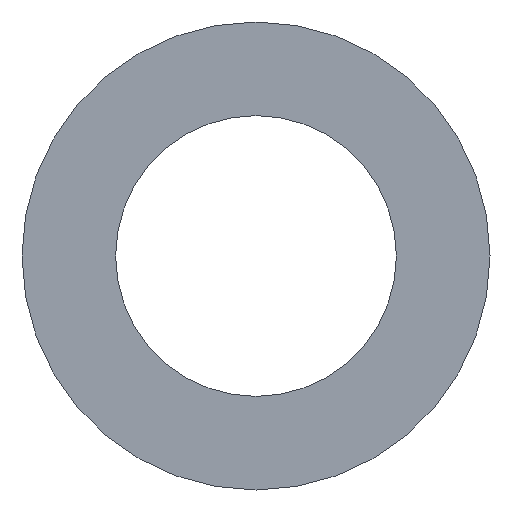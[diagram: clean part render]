
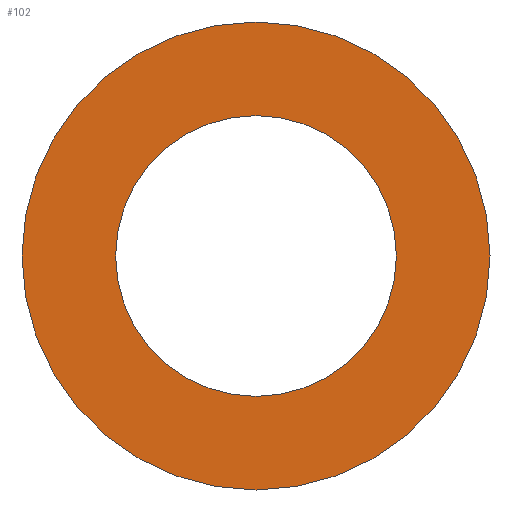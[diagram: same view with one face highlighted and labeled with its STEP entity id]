
A CAD part, front view. The second image highlights one B-rep face of the part: STEP entity #102.
In plain terms, the highlighted planar face has unit normal (0, -1, 0).
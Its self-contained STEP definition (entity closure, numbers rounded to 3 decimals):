
#4 = ORIENTED_EDGE ( 'NONE', *, *, #166, .F. ) ;
#11 = CARTESIAN_POINT ( 'NONE',  ( 0., 0., -2.5 ) ) ;
#16 = EDGE_CURVE ( 'NONE', #77, #127, #165, .T. ) ;
#20 = CIRCLE ( 'NONE', #192, 2.5 ) ;
#25 = DIRECTION ( 'NONE',  ( 0., 1., 0. ) ) ;
#27 = DIRECTION ( 'NONE',  ( 0., 0., 1. ) ) ;
#28 = DIRECTION ( 'NONE',  ( 0., 0., 1. ) ) ;
#31 = VERTEX_POINT ( 'NONE', #11 ) ;
#37 = CARTESIAN_POINT ( 'NONE',  ( 0., 0., 0. ) ) ;
#43 = DIRECTION ( 'NONE',  ( 0., 1., 0. ) ) ;
#45 = ORIENTED_EDGE ( 'NONE', *, *, #48, .T. ) ;
#47 = CIRCLE ( 'NONE', #182, 1.5 ) ;
#48 = EDGE_CURVE ( 'NONE', #127, #77, #47, .T. ) ;
#57 = AXIS2_PLACEMENT_3D ( 'NONE', #37, #84, #27 ) ;
#63 = EDGE_CURVE ( 'NONE', #194, #31, #94, .T. ) ;
#73 = CARTESIAN_POINT ( 'NONE',  ( 0., 0., 0. ) ) ;
#74 = FACE_BOUND ( 'NONE', #180, .T. ) ;
#77 = VERTEX_POINT ( 'NONE', #150 ) ;
#84 = DIRECTION ( 'NONE',  ( 0., 1., 0. ) ) ;
#86 = FACE_OUTER_BOUND ( 'NONE', #107, .T. ) ;
#94 = CIRCLE ( 'NONE', #57, 2.5 ) ;
#101 = CARTESIAN_POINT ( 'NONE',  ( 0., 0., 0. ) ) ;
#102 = ADVANCED_FACE ( 'NONE', ( #86, #74 ), #139, .F. ) ;
#106 = CARTESIAN_POINT ( 'NONE',  ( 0., 0., 1.5 ) ) ;
#107 = EDGE_LOOP ( 'NONE', ( #4, #168 ) ) ;
#117 = CARTESIAN_POINT ( 'NONE',  ( 0., 0., 0. ) ) ;
#119 = DIRECTION ( 'NONE',  ( 0., 1., 0. ) ) ;
#127 = VERTEX_POINT ( 'NONE', #106 ) ;
#131 = AXIS2_PLACEMENT_3D ( 'NONE', #186, #43, #153 ) ;
#136 = AXIS2_PLACEMENT_3D ( 'NONE', #117, #25, #148 ) ;
#137 = DIRECTION ( 'NONE',  ( 0., 1., 0. ) ) ;
#139 = PLANE ( 'NONE',  #131 ) ;
#148 = DIRECTION ( 'NONE',  ( 0., 0., 1. ) ) ;
#150 = CARTESIAN_POINT ( 'NONE',  ( 0., 0., -1.5 ) ) ;
#153 = DIRECTION ( 'NONE',  ( 0., 0., 1. ) ) ;
#165 = CIRCLE ( 'NONE', #136, 1.5 ) ;
#166 = EDGE_CURVE ( 'NONE', #31, #194, #20, .T. ) ;
#168 = ORIENTED_EDGE ( 'NONE', *, *, #63, .F. ) ;
#171 = DIRECTION ( 'NONE',  ( 0., 0., 1. ) ) ;
#176 = CARTESIAN_POINT ( 'NONE',  ( 0., 0., 2.5 ) ) ;
#180 = EDGE_LOOP ( 'NONE', ( #187, #45 ) ) ;
#182 = AXIS2_PLACEMENT_3D ( 'NONE', #101, #119, #28 ) ;
#186 = CARTESIAN_POINT ( 'NONE',  ( 0., 0., 0. ) ) ;
#187 = ORIENTED_EDGE ( 'NONE', *, *, #16, .T. ) ;
#192 = AXIS2_PLACEMENT_3D ( 'NONE', #73, #137, #171 ) ;
#194 = VERTEX_POINT ( 'NONE', #176 ) ;
